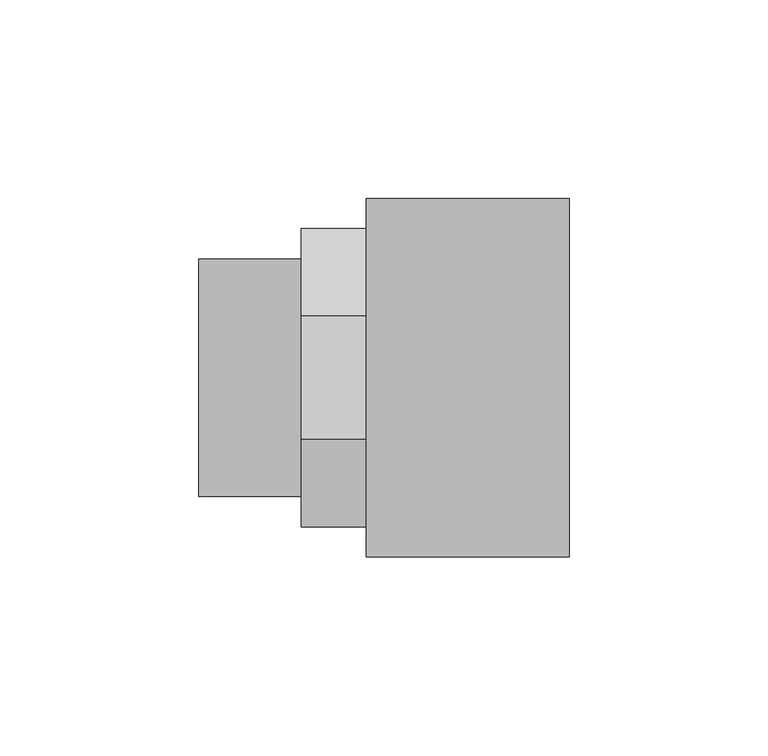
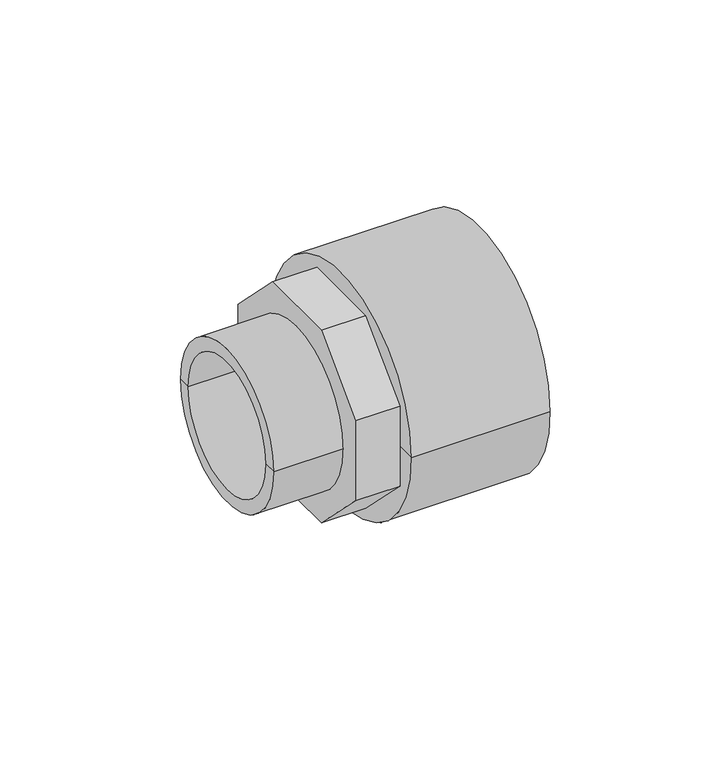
"""IFC4 building model written with IfcOpenShell, lengths in millimetres: pipe fitting geometry, Durapipe_PipeFitting_PVC_MaleThreadedAdaptors : 90 x 75 x G2."""

import ifcopenshell
import ifcopenshell.guid

model = None  # the IFC model being written
_history = None  # IfcOwnerHistory: only IFC2X3 demands one
_inside = {}  # id of a spatial element -> (the spatial element, [elements in it])
_under = {}  # id of a project, library or spatial element -> (it, [spatial elements below it])
_declared = {}  # id of a project -> (the project, [libraries it declares])
_typed = {}  # id of a type object -> (the type object, [elements of that type])
_made_of = {}  # id of a material, layer set ... -> (it, [elements and type objects made of it])


def new_model(schema):
    """Start an empty IFC model of exactly this schema.

    Asked for "IFC4X3", IfcOpenShell would pick the latest addendum, in which some entities
    have other attributes; the version numbers below select the first issue.
    IFC2X3 requires an IfcOwnerHistory on every rooted entity: one is made here for all.
    """
    global model, _history
    if schema == "IFC4X3":
        model = ifcopenshell.file(schema_version=(4, 3, 0, 0))
    else:
        model = ifcopenshell.file(schema=schema)
    _inside.clear()
    _under.clear()
    _declared.clear()
    _typed.clear()
    _made_of.clear()
    _history = None
    if model.schema == "IFC2X3":
        org = make("IfcOrganization", Name="unknown")
        user = make(
            "IfcPersonAndOrganization",
            ThePerson=make("IfcPerson", FamilyName="unknown"),
            TheOrganization=org,
        )
        app = make(
            "IfcApplication",
            ApplicationDeveloper=org,
            Version="unknown",
            ApplicationFullName="unknown",
            ApplicationIdentifier="unknown",
        )
        _history = make(
            "IfcOwnerHistory",
            OwningUser=user,
            OwningApplication=app,
            ChangeAction="ADDED",
            CreationDate=0,
        )
    return model


def make(cls, **values):
    """One entity of the class cls with the attributes given. An attribute that is None is left unset."""
    return model.create_entity(
        cls, **{name: value for name, value in values.items() if value is not None}
    )


def rooted(cls, **values):
    """An entity with a GlobalId (a new one), such as an element, a storey or a relation."""
    return make(cls, GlobalId=ifcopenshell.guid.new(), OwnerHistory=_history, **values)


def si_unit(unit_type, name, prefix=None):
    """IfcSIUnit, for example si_unit("LENGTHUNIT", "METRE", prefix="MILLI")."""
    return make("IfcSIUnit", UnitType=unit_type, Prefix=prefix, Name=name)


def assignment(units):
    """IfcUnitAssignment: the units of a project."""
    return None if units is None else make("IfcUnitAssignment", Units=units)


def point(xyz):
    """IfcCartesianPoint."""
    return None if xyz is None else make("IfcCartesianPoint", Coordinates=xyz)


def direction(xyz):
    """IfcDirection."""
    return None if xyz is None else make("IfcDirection", DirectionRatios=xyz)


def frame(location, z_axis=None, x_axis=None):
    """IfcAxis2Placement3D, a coordinate frame: its origin and axes. An axis left out is left unset."""
    return make(
        "IfcAxis2Placement3D",
        Location=point(location),
        Axis=direction(z_axis),
        RefDirection=direction(x_axis),
    )


def frame_2d(location, x_axis=None):
    """IfcAxis2Placement2D, a coordinate frame in the plane: its origin and x axis."""
    return make(
        "IfcAxis2Placement2D", Location=point(location), RefDirection=direction(x_axis)
    )


def origin():
    """The frame at (0, 0, 0) with its axes left unset."""
    return frame((0.0, 0.0, 0.0))


def origin_2d():
    """The frame at (0, 0) in the plane with its x axis left unset."""
    return frame_2d((0.0, 0.0))


def place(relative_to, where):
    """IfcLocalPlacement: puts the frame where relative to a parent placement (None: the world)."""
    return make(
        "IfcLocalPlacement", PlacementRelTo=relative_to, RelativePlacement=where
    )


def context(
    kind, dimensions, precision=None, world=None, true_north=None, identifier=None
):
    """IfcGeometricRepresentationContext, for example the 3D "Model" context."""
    return make(
        "IfcGeometricRepresentationContext",
        ContextIdentifier=identifier,
        ContextType=kind,
        CoordinateSpaceDimension=dimensions,
        Precision=precision,
        WorldCoordinateSystem=world,
        TrueNorth=true_north,
    )


def project(units=None, contexts=None):
    """IfcProject with its units and contexts."""
    return rooted(
        "IfcProject",
        Name="project",
        RepresentationContexts=contexts,
        UnitsInContext=assignment(units),
    )


def spatial(cls, under=None, at=None, **own):
    """A site, building, storey or space (cls), placed at a placement, below another one or the project."""
    s = rooted(cls, ObjectPlacement=at, **own)
    if under is not None:
        _under.setdefault(under.id(), (under, []))[1].append(s)
    return s


def polyline(points):
    """IfcPolyline through the points."""
    return make("IfcPolyline", Points=[point(p) for p in points])


def circle_curve(where, radius):
    """IfcCircle in the frame where."""
    return make("IfcCircle", Position=where, Radius=radius)


def trimmed(basis, trim1, trim2, sense, master):
    """IfcTrimmedCurve: the piece of a basis curve between two trims."""
    return make(
        "IfcTrimmedCurve",
        BasisCurve=basis,
        Trim1=trim1,
        Trim2=trim2,
        SenseAgreement=sense,
        MasterRepresentation=master,
    )


def segment(curve, same_sense, transition):
    """IfcCompositeCurveSegment."""
    return make(
        "IfcCompositeCurveSegment",
        Transition=transition,
        SameSense=same_sense,
        ParentCurve=curve,
    )


def composite_curve(segments, self_intersect=None):
    """IfcCompositeCurve: segments joined end to end."""
    return make("IfcCompositeCurve", Segments=segments, SelfIntersect=self_intersect)


def outline(outer, holes=None, kind="AREA"):
    """IfcArbitraryClosedProfileDef: a profile drawn as a closed curve; with holes, ...WithVoids."""
    if holes is None:
        return make("IfcArbitraryClosedProfileDef", ProfileType=kind, OuterCurve=outer)
    return make(
        "IfcArbitraryProfileDefWithVoids",
        ProfileType=kind,
        OuterCurve=outer,
        InnerCurves=holes,
    )


def extrude(swept, where, along, depth):
    """IfcExtrudedAreaSolid: the profile swept, set in the frame where, extruded along a direction by depth."""
    return make(
        "IfcExtrudedAreaSolid",
        SweptArea=swept,
        Position=where,
        ExtrudedDirection=direction(along),
        Depth=depth,
    )


def shape(context_of_items, identifier, shape_type, items):
    """IfcShapeRepresentation: the items that make up one representation, for example the "Body"."""
    return make(
        "IfcShapeRepresentation",
        ContextOfItems=context_of_items,
        RepresentationIdentifier=identifier,
        RepresentationType=shape_type,
        Items=items,
    )


def source(mapping_origin, context_of_items, identifier, shape_type, items):
    """IfcRepresentationMap: a shape defined once, which mapped items show again and again."""
    return make(
        "IfcRepresentationMap",
        MappingOrigin=mapping_origin,
        MappedRepresentation=shape(context_of_items, identifier, shape_type, items),
    )


def transform(
    local_origin,
    x_axis=None,
    y_axis=None,
    z_axis=None,
    scale=None,
    scale2=None,
    scale3=None,
    uniform=True,
):
    """IfcCartesianTransformationOperator3D, or its non-uniform kind. x_axis, y_axis, z_axis: its Axis1, 2, 3."""
    if uniform:
        return make(
            "IfcCartesianTransformationOperator3D",
            Axis1=direction(x_axis),
            Axis2=direction(y_axis),
            LocalOrigin=point(local_origin),
            Scale=scale,
            Axis3=direction(z_axis),
        )
    return make(
        "IfcCartesianTransformationOperator3DnonUniform",
        Axis1=direction(x_axis),
        Axis2=direction(y_axis),
        LocalOrigin=point(local_origin),
        Scale=scale,
        Axis3=direction(z_axis),
        Scale2=scale2,
        Scale3=scale3,
    )


def mapped(mapping_source, mapping_target):
    """IfcMappedItem: shows the shape of a source again, moved by a transform."""
    return make(
        "IfcMappedItem", MappingSource=mapping_source, MappingTarget=mapping_target
    )


def made_of(thing, what):
    """Note that an element or type object is made of a material, layer set ...; save() writes the relation."""
    if what is not None:
        _made_of.setdefault(what.id(), (what, []))[1].append(thing)
    return thing


def element(
    cls,
    number,
    at=None,
    inside=None,
    cuts=None,
    type_object=None,
    material=None,
    context=None,
    identifier="Body",
    shape_type=None,
    held_by="IfcProductDefinitionShape",
    body=None,
    shapes=None,
    **own,
):
    """One element of the class cls, such as IfcWall. Its Tag is "e" and its number.

    at: its placement. inside: the storey or other place that contains it. cuts: it is an
    opening in that element (IfcRelVoidsElement). A single representation is given by context,
    identifier, shape_type and body (its items); several are given by shapes. held_by: the class
    of the entity that holds the representations. save() writes the other relations.
    """
    e = rooted(cls, Tag="e%d" % number, ObjectPlacement=at, **own)
    if body is not None:
        shapes = [shape(context, identifier, shape_type, body)]
    if shapes is not None:
        e.Representation = make(held_by, Representations=shapes)
    if inside is not None:
        _inside.setdefault(inside.id(), (inside, []))[1].append(e)
    if cuts is not None:
        rooted(
            "IfcRelVoidsElement", RelatingBuildingElement=cuts, RelatedOpeningElement=e
        )
    if type_object is not None:
        _typed.setdefault(type_object.id(), (type_object, []))[1].append(e)
    return made_of(e, material)


def aggregate(whole, parts):
    """IfcRelAggregates: a whole, such as a stair, and the parts it consists of."""
    return rooted("IfcRelAggregates", RelatingObject=whole, RelatedObjects=parts)


def save(model, path):
    """Write the relations noted so far, then the file.

    IfcRelAggregates (storeys below a building ...), IfcRelContainedInSpatialStructure (elements
    in a storey), IfcRelDefinesByType, IfcRelAssociatesMaterial and IfcRelDeclares: one each for
    every whole, place, type object, material and project.
    """
    for whole, parts in _under.values():
        aggregate(whole, parts)
    for where, things in _inside.values():
        rooted(
            "IfcRelContainedInSpatialStructure",
            RelatedElements=things,
            RelatingStructure=where,
        )
    for kind, things in _typed.values():
        rooted("IfcRelDefinesByType", RelatedObjects=things, RelatingType=kind)
    for what, things in _made_of.values():
        rooted("IfcRelAssociatesMaterial", RelatedObjects=things, RelatingMaterial=what)
    for by, libraries in _declared.values():
        rooted("IfcRelDeclares", RelatingContext=by, RelatedDefinitions=libraries)
    model.write(path)


def plane_surface(at):
    """IfcPlane: the flat surface through the origin of the frame at, square to its z axis."""
    return make("IfcPlane", Position=at)


def cylinder_surface(at, radius):
    """IfcCylindricalSurface: all points at the distance radius from the z axis of the frame at."""
    return make("IfcCylindricalSurface", Position=at, Radius=radius)


def revolved_surface(curve, axis_point, axis_direction):
    """IfcSurfaceOfRevolution: the curve turned about the line through axis_point along axis_direction."""
    return make(
        "IfcSurfaceOfRevolution",
        SweptCurve=make("IfcArbitraryOpenProfileDef", ProfileType="CURVE", Curve=curve),
        AxisPosition=make("IfcAxis1Placement", Location=point(axis_point), Axis=direction(axis_direction)),
    )


def advanced_brep(points, edges, surfaces, faces):
    """IfcAdvancedBrep: a solid bounded by faces that lie on surfaces and meet in shared edges.

    An edge is (start, end): straight between two places in points (the first is 0);
    or (start, end, curve); or (start, end, curve, False) where it runs against its curve.
    A face is (place in surfaces, loops), or (place, loops, False) where it looks against
    its surface's normal. A loop lists edges by number (the first is 1), with a minus sign
    where the edge is run from its end to its start. The first loop is the outer one.
    """
    corners = [point(p) for p in points]
    vertices = [make("IfcVertexPoint", VertexGeometry=c) for c in corners]
    made = []
    for start, end, *more in edges:
        made.append(
            make(
                "IfcEdgeCurve",
                EdgeStart=vertices[start],
                EdgeEnd=vertices[end],
                EdgeGeometry=more[0] if more else make("IfcPolyline", Points=[corners[start], corners[end]]),
                SameSense=more[1] if len(more) > 1 else True,
            )
        )
    hull = []
    for where, loops, *sense in faces:
        bounds = []
        for j, loop in enumerate(loops):
            ring = [make("IfcOrientedEdge", EdgeElement=made[abs(k) - 1], Orientation=k > 0) for k in loop]
            bounds.append(
                make(
                    "IfcFaceOuterBound" if j == 0 else "IfcFaceBound",
                    Bound=make("IfcEdgeLoop", EdgeList=ring),
                    Orientation=True,
                )
            )
        hull.append(make("IfcAdvancedFace", Bounds=bounds, FaceSurface=surfaces[where], SameSense=sense[0] if sense else True))
    return make("IfcAdvancedBrep", Outer=make("IfcClosedShell", CfsFaces=hull))


def pipe_fitting_9718ebb0(model_context):
    return source(origin(), model_context, "Body", "SolidModel", [
        extrude(outline(polyline([(37.5, 15.5330086), (37.5, -15.5330086), (15.5330086, -37.5), (-15.5330086, -37.5), (-37.5, -15.5330086), (-37.5, 15.5330086), (-15.5330086, 37.5), (15.5330086, 37.5), (37.5, 15.5330086)]), holes=[composite_curve([segment(trimmed(circle_curve(origin_2d(), 24.8), [point((24.8, 0.0))], [point((-24.8, 0.0))], True, "CARTESIAN"), True, "CONTINUOUS"), segment(trimmed(circle_curve(origin_2d(), 24.8), [point((-24.8, 0.0))], [point((24.8, 0.0))], True, "CARTESIAN"), True, "CONTINUOUS")], self_intersect=False)]), frame((-16.3, 0.0, 0.0), z_axis=(1.0, 0.0, 0.0), x_axis=(0.0, 1.0, 0.0)), (0.0, 0.0, 1.0), 16.3),
        advanced_brep(
        [(0.0, -45.0, 0.0), (0.0, 45.0, 0.0), (51.0, 45.0, 0.0), (51.0, -45.0, 0.0), (51.0, 37.5, 0.0), (51.0, -37.5, 0.0), (0.0, 0.0, 0.0), (7.0, 37.5, 0.0), (7.0, -37.5, 0.0), (7.0, 0.0, 0.0)],
        [
            (0, 1, circle_curve(frame((0.0, 0.0, 0.0), z_axis=(1.0, 0.0, 0.0), x_axis=(0.0, 1.0, 0.0)), 45.0)),
            (1, 2),
            (2, 3, circle_curve(frame((51.0, 0.0, 0.0), z_axis=(-1.0, 0.0, 0.0), x_axis=(0.0, 1.0, 0.0)), 45.0)),
            (3, 0),
            (1, 0, circle_curve(frame((0.0, 0.0, 0.0), z_axis=(1.0, 0.0, 0.0), x_axis=(0.0, 1.0, 0.0)), 45.0)),
            (3, 2, circle_curve(frame((51.0, 0.0, 0.0), z_axis=(-1.0, 0.0, 0.0), x_axis=(0.0, 1.0, 0.0)), 45.0)),
            (2, 4),
            (4, 5, circle_curve(frame((51.0, 0.0, 0.0), z_axis=(-1.0, 0.0, 0.0), x_axis=(0.0, 1.0, 0.0)), 37.5)),
            (5, 3),
            (5, 4, circle_curve(frame((51.0, 0.0, 0.0), z_axis=(-1.0, 0.0, 0.0), x_axis=(0.0, 1.0, 0.0)), 37.5)),
            (0, 6),
            (6, 1),
            (7, 8, circle_curve(frame((7.0, 0.0, 0.0), z_axis=(-1.0, 0.0, 0.0), x_axis=(0.0, 1.0, 0.0)), 37.5)),
            (8, 5),
            (4, 7),
            (8, 7, circle_curve(frame((7.0, 0.0, 0.0), z_axis=(-1.0, 0.0, 0.0), x_axis=(0.0, 1.0, 0.0)), 37.5)),
            (7, 9),
            (9, 8),
        ],
        [
            cylinder_surface(frame((452.4572068, 0.0, 0.0), z_axis=(-1.0, 0.0, 0.0), x_axis=(0.0, 1.0, 0.0)), 45.0),
            plane_surface(frame((51.0, 0.0, 0.0), z_axis=(1.0, 0.0, 0.0), x_axis=(0.0, 1.0, 0.0))),
            plane_surface(frame((0.0, 0.0, 0.0), z_axis=(-1.0, 0.0, 0.0), x_axis=(0.0, 1.0, 0.0))),
            revolved_surface(polyline([(7.0, 37.5, 0.0), (51.0, 37.5, 0.0)]), (64.5575137, 0.0, 0.0), (-1.0, 0.0, 0.0)),
            plane_surface(frame((7.0, 0.0, 0.0), z_axis=(1.0, 0.0, 0.0), x_axis=(0.0, 1.0, 0.0))),
        ],
        [
            (0, [[1, 2, 3, 4]]),
            (0, [[-2, 5, -4, 6]]),
            (1, [[-3, 7, 8, 9]]),
            (1, [[-6, -9, 10, -7]]),
            (2, [[-1, 11, 12]]),
            (2, [[-5, -12, -11]]),
            (3, [[13, 14, -8, 15]]),
            (3, [[16, -15, -10, -14]]),
            (4, [[-13, 17, 18]]),
            (4, [[-16, -18, -17]]),
        ],
    ),
        advanced_brep(
        [(-16.3, -24.8, 0.0), (-16.3, 24.8, 0.0), (-42.0, 24.8, 0.0), (-42.0, -24.8, 0.0), (-16.3, -29.8, 0.0), (-16.3, 29.8, 0.0), (-42.0, -29.8, 0.0), (-42.0, 29.8, 0.0)],
        [
            (0, 1, circle_curve(frame((-16.3, 0.0, 0.0), z_axis=(1.0, 0.0, 0.0), x_axis=(0.0, 1.0, 0.0)), 24.8)),
            (1, 2),
            (2, 3, circle_curve(frame((-42.0, 0.0, 0.0), z_axis=(-1.0, 0.0, 0.0), x_axis=(0.0, 1.0, 0.0)), 24.8)),
            (3, 0),
            (1, 0, circle_curve(frame((-16.3, 0.0, 0.0), z_axis=(1.0, 0.0, 0.0), x_axis=(0.0, 1.0, 0.0)), 24.8)),
            (3, 2, circle_curve(frame((-42.0, 0.0, 0.0), z_axis=(-1.0, 0.0, 0.0), x_axis=(0.0, 1.0, 0.0)), 24.8)),
            (4, 5, circle_curve(frame((-16.3, 0.0, 0.0), z_axis=(1.0, 0.0, 0.0), x_axis=(0.0, 1.0, 0.0)), 29.8)),
            (5, 1),
            (0, 4),
            (5, 4, circle_curve(frame((-16.3, 0.0, 0.0), z_axis=(1.0, 0.0, 0.0), x_axis=(0.0, 1.0, 0.0)), 29.8)),
            (6, 7, circle_curve(frame((-42.0, 0.0, 0.0), z_axis=(1.0, 0.0, 0.0), x_axis=(0.0, 1.0, 0.0)), 29.8)),
            (7, 5),
            (4, 6),
            (7, 6, circle_curve(frame((-42.0, 0.0, 0.0), z_axis=(1.0, 0.0, 0.0), x_axis=(0.0, 1.0, 0.0)), 29.8)),
            (2, 7),
            (6, 3),
        ],
        [
            revolved_surface(polyline([(-42.0, 24.8, 0.0), (-16.299999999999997, 24.8, 0.0)]), (-57.0, 0.0, 0.0), (-1.0, 0.0, 0.0)),
            plane_surface(frame((-16.3, 0.0, 0.0), z_axis=(1.0, 0.0, 0.0), x_axis=(0.0, 1.0, 0.0))),
            cylinder_surface(frame((-57.0, 0.0, 0.0), z_axis=(-1.0, 0.0, 0.0), x_axis=(0.0, 1.0, 0.0)), 29.8),
            plane_surface(frame((-42.0, 0.0, 0.0), z_axis=(-1.0, 0.0, 0.0), x_axis=(0.0, 1.0, 0.0))),
        ],
        [
            (0, [[1, 2, 3, 4]]),
            (0, [[5, -4, 6, -2]]),
            (1, [[7, 8, -1, 9]]),
            (1, [[10, -9, -5, -8]]),
            (2, [[11, 12, -7, 13]]),
            (2, [[14, -13, -10, -12]]),
            (3, [[-3, 15, -11, 16]]),
            (3, [[-6, -16, -14, -15]]),
        ],
    ),
    ])


if __name__ == "__main__":
    model = new_model("IFC4")
    model_context = context("Model", 3, world=origin())
    ifc_project = project(units=[si_unit("LENGTHUNIT", "METRE", prefix="MILLI")], contexts=[model_context])
    site = spatial("IfcSite", under=ifc_project)
    building = spatial("IfcBuilding", under=site)
    placement = place(None, origin())
    pipe_fitting_shape = pipe_fitting_9718ebb0(model_context)
    element("IfcPipeFitting", 1, ObjectType="Durapipe_PipeFitting_PVC_MaleThreadedAdaptors : 90 x 75 x G2", at=placement, inside=building, context=model_context, shape_type="MappedRepresentation", body=[
        mapped(pipe_fitting_shape, transform((0.0, 0.0, 0.0), x_axis=(1.0, 0.0, 0.0), y_axis=(0.0, 1.0, 0.0), z_axis=(0.0, 0.0, 1.0))),
    ])
    save(model, "model.ifc")
